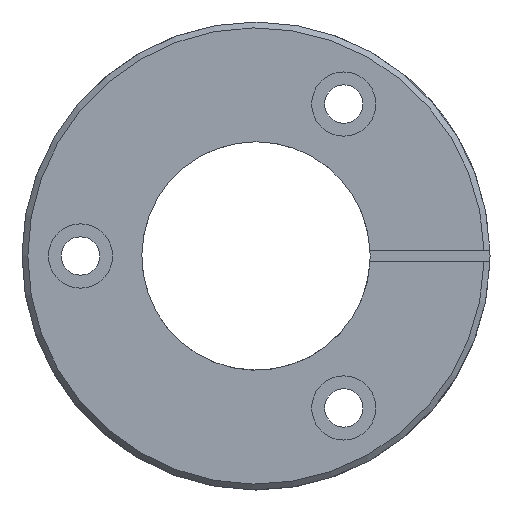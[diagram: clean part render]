
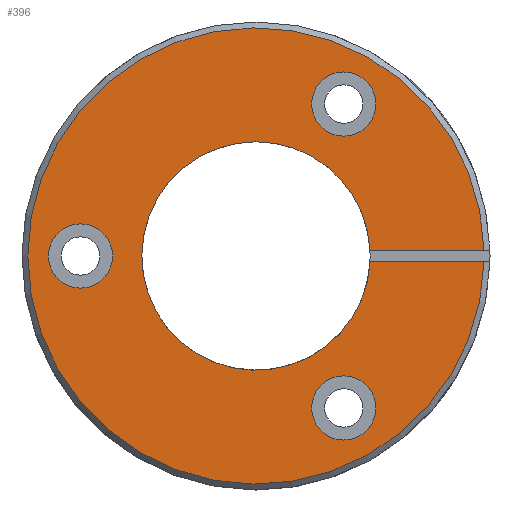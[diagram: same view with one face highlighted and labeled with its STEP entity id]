
A CAD part, front view. The second image highlights one B-rep face of the part: STEP entity #396.
In plain terms, the highlighted planar face has unit normal (0, -1, 0).
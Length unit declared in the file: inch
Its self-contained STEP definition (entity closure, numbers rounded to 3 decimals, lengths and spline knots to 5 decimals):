
#1 = AXIS2_PLACEMENT_3D ( 'NONE', #973, #976, #777 ) ;
#2 = EDGE_CURVE ( 'NONE', #193, #196, #534, .T. ) ;
#19 = EDGE_CURVE ( 'NONE', #184, #173, #462, .T. ) ;
#26 = AXIS2_PLACEMENT_3D ( 'NONE', #781, #888, #805 ) ;
#29 = EDGE_CURVE ( 'NONE', #745, #745, #482, .T. ) ;
#30 = AXIS2_PLACEMENT_3D ( 'NONE', #783, #913, #770 ) ;
#48 = AXIS2_PLACEMENT_3D ( 'NONE', #341, #331, #308 ) ;
#75 = AXIS2_PLACEMENT_3D ( 'NONE', #795, #1019, #910 ) ;
#87 = EDGE_CURVE ( 'NONE', #681, #681, #615, .T. ) ;
#96 = EDGE_CURVE ( 'NONE', #684, #684, #439, .T. ) ;
#120 = EDGE_CURVE ( 'NONE', #173, #193, #588, .T. ) ;
#121 = EDGE_CURVE ( 'NONE', #196, #184, #607, .T. ) ;
#132 = AXIS2_PLACEMENT_3D ( 'NONE', #812, #1058, #797 ) ;
#173 = VERTEX_POINT ( 'NONE', #1048 ) ;
#178 = ORIENTED_EDGE ( 'NONE', *, *, #19, .F. ) ;
#179 = ORIENTED_EDGE ( 'NONE', *, *, #2, .F. ) ;
#184 = VERTEX_POINT ( 'NONE', #1116 ) ;
#193 = VERTEX_POINT ( 'NONE', #1083 ) ;
#194 = ORIENTED_EDGE ( 'NONE', *, *, #29, .F. ) ;
#196 = VERTEX_POINT ( 'NONE', #886 ) ;
#225 = ORIENTED_EDGE ( 'NONE', *, *, #120, .F. ) ;
#249 = ORIENTED_EDGE ( 'NONE', *, *, #96, .F. ) ;
#250 = ORIENTED_EDGE ( 'NONE', *, *, #87, .F. ) ;
#255 = DIRECTION ( 'NONE',  ( 1., 0., 0. ) ) ;
#257 = CARTESIAN_POINT ( 'NONE',  ( 1.25, 0., -0.03125 ) ) ;
#281 = DIRECTION ( 'NONE',  ( -1., 0., 0. ) ) ;
#283 = CARTESIAN_POINT ( 'NONE',  ( 1.25, 0., 0.03125 ) ) ;
#308 = DIRECTION ( 'NONE',  ( 0., 0., -1. ) ) ;
#331 = DIRECTION ( 'NONE',  ( 0., -1., 0. ) ) ;
#341 = CARTESIAN_POINT ( 'NONE',  ( 0.46875, 0., 0.8119 ) ) ;
#396 = ADVANCED_FACE ( 'NONE', ( #666, #713, #665, #664 ), #877, .F. ) ;
#435 = VECTOR ( 'NONE', #281, 39.37008 ) ;
#439 = CIRCLE ( 'NONE', #1, 0.1715 ) ;
#462 = LINE ( 'NONE', #257, #470 ) ;
#463 = EDGE_LOOP ( 'NONE', ( #250 ) ) ;
#470 = VECTOR ( 'NONE', #255, 39.37008 ) ;
#482 = CIRCLE ( 'NONE', #48, 0.1715 ) ;
#534 = LINE ( 'NONE', #283, #435 ) ;
#537 = ORIENTED_EDGE ( 'NONE', *, *, #121, .F. ) ;
#568 = EDGE_LOOP ( 'NONE', ( #249 ) ) ;
#577 = EDGE_LOOP ( 'NONE', ( #194 ) ) ;
#588 = CIRCLE ( 'NONE', #30, 1.21875 ) ;
#595 = EDGE_LOOP ( 'NONE', ( #225, #178, #537, #179 ) ) ;
#607 = CIRCLE ( 'NONE', #75, 0.61 ) ;
#615 = CIRCLE ( 'NONE', #26, 0.1715 ) ;
#664 = FACE_OUTER_BOUND ( 'NONE', #595, .T. ) ;
#665 = FACE_BOUND ( 'NONE', #463, .T. ) ;
#666 = FACE_BOUND ( 'NONE', #577, .T. ) ;
#681 = VERTEX_POINT ( 'NONE', #1088 ) ;
#684 = VERTEX_POINT ( 'NONE', #1012 ) ;
#713 = FACE_BOUND ( 'NONE', #568, .T. ) ;
#745 = VERTEX_POINT ( 'NONE', #1065 ) ;
#770 = DIRECTION ( 'NONE',  ( 0., 0., 1. ) ) ;
#777 = DIRECTION ( 'NONE',  ( 0., 0., -1. ) ) ;
#781 = CARTESIAN_POINT ( 'NONE',  ( -0.9375, 0., 0. ) ) ;
#783 = CARTESIAN_POINT ( 'NONE',  ( 0., 0., 0. ) ) ;
#795 = CARTESIAN_POINT ( 'NONE',  ( 0., 0., 0. ) ) ;
#797 = DIRECTION ( 'NONE',  ( 0., 0., 1. ) ) ;
#805 = DIRECTION ( 'NONE',  ( 0., 0., -1. ) ) ;
#812 = CARTESIAN_POINT ( 'NONE',  ( 0.61, 0., 0. ) ) ;
#877 = PLANE ( 'NONE',  #132 ) ;
#886 = CARTESIAN_POINT ( 'NONE',  ( 0.6092, 0., 0.03125 ) ) ;
#888 = DIRECTION ( 'NONE',  ( 0., -1., 0. ) ) ;
#910 = DIRECTION ( 'NONE',  ( 0., 0., 1. ) ) ;
#913 = DIRECTION ( 'NONE',  ( 0., 1., 0. ) ) ;
#973 = CARTESIAN_POINT ( 'NONE',  ( 0.46875, 0., -0.8119 ) ) ;
#976 = DIRECTION ( 'NONE',  ( 0., -1., 0. ) ) ;
#1012 = CARTESIAN_POINT ( 'NONE',  ( 0.46875, 0., -0.9834 ) ) ;
#1019 = DIRECTION ( 'NONE',  ( 0., -1., 0. ) ) ;
#1048 = CARTESIAN_POINT ( 'NONE',  ( 1.21835, 0., -0.03125 ) ) ;
#1058 = DIRECTION ( 'NONE',  ( 0., 1., 0. ) ) ;
#1065 = CARTESIAN_POINT ( 'NONE',  ( 0.46875, 0., 0.6404 ) ) ;
#1083 = CARTESIAN_POINT ( 'NONE',  ( 1.21835, 0., 0.03125 ) ) ;
#1088 = CARTESIAN_POINT ( 'NONE',  ( -0.9375, 0., -0.1715 ) ) ;
#1116 = CARTESIAN_POINT ( 'NONE',  ( 0.6092, 0., -0.03125 ) ) ;
